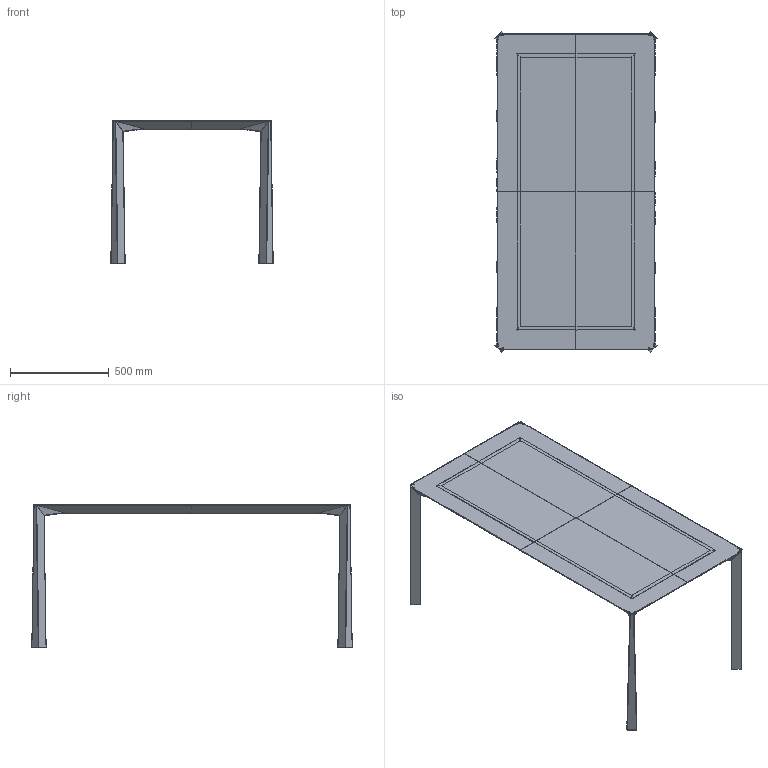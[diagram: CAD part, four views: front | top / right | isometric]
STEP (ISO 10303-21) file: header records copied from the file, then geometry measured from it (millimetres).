
FILE_DESCRIPTION(/* description */ (''),/* implementation_level */ '2;1');
FILE_NAME(/* name */ 'ovidio M 160x80x72h 3D',/* time_stamp */ '2017-05-31T11:21:05+02:00',/* author */ (''),/* organization */ (''),/* preprocessor_version */ 'ST-DEVELOPER v10',/* originating_system */ '',/* authorisation */ '');
FILE_SCHEMA (('CONFIG_CONTROL_DESIGN'));
Length unit declared in the file: millimetre
Products named in the file (1): 1
Bounding box: 821.92 x 1621.92 x 721.53 mm (x, y, z)
Surface area: 4863780.4 mm2 (no closed solid volume)
Topology: 0 solids, 1164 shells, 1164 faces, 5804 edges, 5804 vertices
Faces by surface type: bspline 636, plane 528
Entity records: 59652 total; most frequent: CARTESIAN_POINT 29662, ORIENTED_EDGE 5804, EDGE_CURVE 5804, VERTEX_POINT 5804, B_SPLINE_CURVE_WITH_KNOTS 4744, EDGE_LOOP 1196, SHELL_BASED_SURFACE_MODEL 1164, OPEN_SHELL 1164
